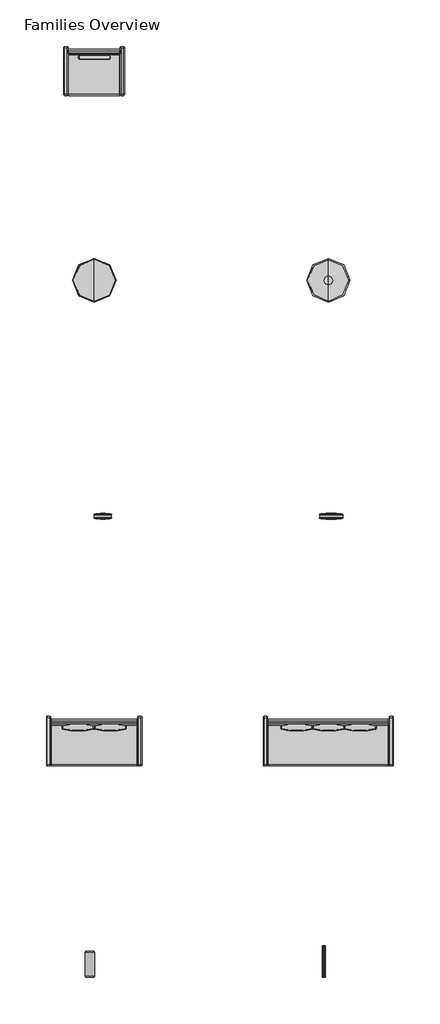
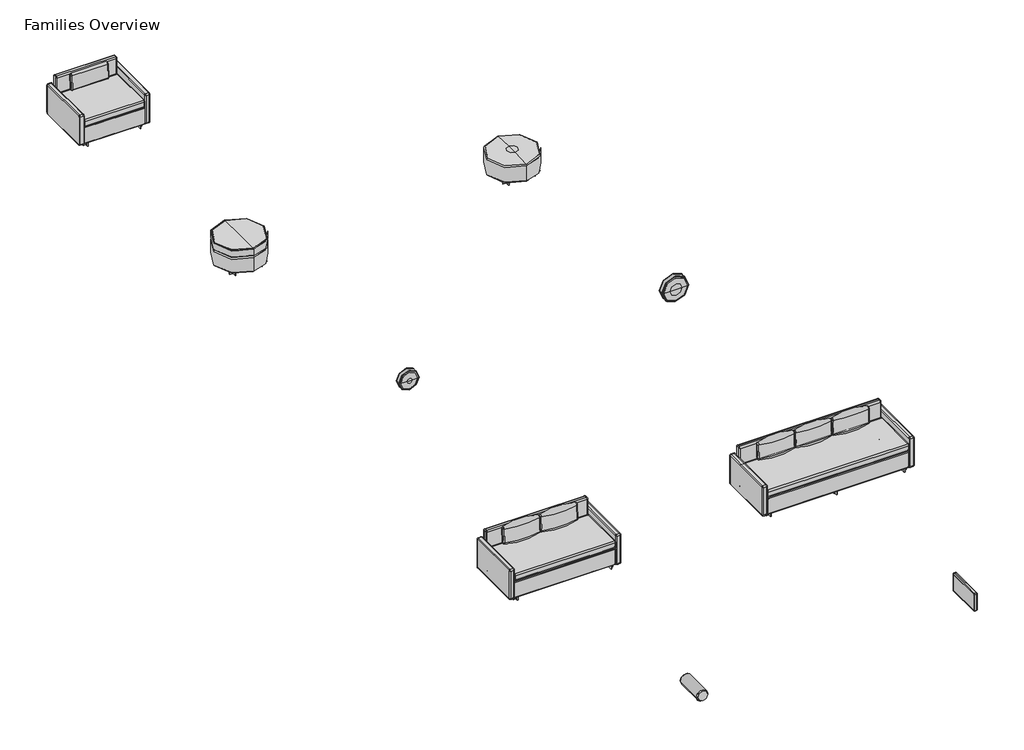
# One storey: 9 furniture elements.
"""IFC4 building model written with IfcOpenShell, lengths in millimetres."""

from ifc_helpers import new_model, si_unit, origin, place, context, project, spatial, transform, mapped, element, save
from components import furniture_1f1e9e6e, furniture_12d_b4e12894, furniture_16d_863c8917, chair_3ea6e28a, chair_06b946c4, pillow_arm_90742106, round_high_6d8b468d, round_low_1aa9a5bd, three_seat_28475667, three_seat_acbe4b72, two_seat_02a8d479, two_seat_8f21ff1d

model = new_model("IFC4")

# Units and contexts
model_context = context("Model", 3, world=origin())
ifc_project = project(units=[si_unit("LENGTHUNIT", "METRE", prefix="MILLI")], contexts=[model_context])

# Site, building, storey
site = spatial("IfcSite", under=ifc_project)
building = spatial("IfcBuilding", under=site)
storey = spatial("IfcBuildingStorey", under=building, Name="Families Overview", Elevation=0.0)

# Furniture
placement = place(None, origin())
furniture_shape = furniture_1f1e9e6e(model_context)
element("IfcFurniture", 1, ObjectType="Steelcase Coalesse - Evaneau - Seating - Arm Pillow and Bolster : Bolster Arm", at=placement, inside=storey, context=model_context, shape_type="MappedRepresentation", body=[
    mapped(furniture_shape, transform((-66850.6553121, 24132.2810442, 0.0), x_axis=(1.0, 0.0, 0.0), y_axis=(0.0, 1.0, 0.0), z_axis=(0.0, 0.0, 1.0))),
])
furniture_12d_shape = furniture_12d_b4e12894(model_context)
element("IfcFurniture", 2, ObjectType="Steelcase Coalesse - Evaneau - Seating - Round Back Pillow : 12D", at=placement, inside=storey, context=model_context, shape_type="MappedRepresentation", body=[
    mapped(furniture_12d_shape, transform((-66598.2188769, 32175.7017021, 0.0), x_axis=(1.0, 0.0, 0.0), y_axis=(0.0, 1.0, 0.0), z_axis=(0.0, 0.0, 1.0))),
])
furniture_16d_shape = furniture_16d_863c8917(model_context)
element("IfcFurniture", 3, ObjectType="Steelcase Coalesse - Evaneau - Seating - Round Back Pillow : 16D", at=placement, inside=storey, context=model_context, shape_type="MappedRepresentation", body=[
    mapped(furniture_16d_shape, transform((-62635.8188769, 32175.7017021, 0.0), x_axis=(1.0, 0.0, 0.0), y_axis=(0.0, 1.0, 0.0), z_axis=(0.0, 0.0, 1.0))),
])
chair_shape = chair_3ea6e28a(model_context)
chair_2_shape = chair_06b946c4(model_context)
element("IfcFurniture", 4, ObjectType="Steelcase Coalesse - Evaneau - Seating - Chair : Chair", at=placement, inside=storey, context=model_context, shape_type="MappedRepresentation", body=[
    mapped(chair_shape, transform((-66598.2188769, 39605.4212748, 0.0), x_axis=(1.0, 0.0, 0.0), y_axis=(0.0, 1.0, 0.0), z_axis=(0.0, 0.0, 1.0))),
    mapped(chair_2_shape, transform((-66598.2188769, 39605.4212748, 0.0), x_axis=(1.0, 0.0, 0.0), y_axis=(0.0, 1.0, 0.0), z_axis=(0.0, 0.0, 1.0))),
])
pillow_arm_shape = pillow_arm_90742106(model_context)
element("IfcFurniture", 5, ObjectType="Steelcase Coalesse - Evaneau - Seating - Arm Pillow and Bolster : Pillow Arm", at=placement, inside=storey, context=model_context, shape_type="MappedRepresentation", body=[
    mapped(pillow_arm_shape, transform((-62659.6553121, 24132.2810442, 0.0), x_axis=(1.0, 0.0, 0.0), y_axis=(0.0, 1.0, 0.0), z_axis=(0.0, 0.0, 1.0))),
])
round_high_shape = round_high_6d8b468d(model_context)
element("IfcFurniture", 6, ObjectType="Steelcase Coalesse - Evaneau - Seating - Ottoman : Round - High", at=placement, inside=storey, context=model_context, shape_type="MappedRepresentation", body=[
    mapped(round_high_shape, transform((-66979.2188769, 35985.7017021, 0.0), x_axis=(1.0, 0.0, 0.0), y_axis=(0.0, 1.0, 0.0), z_axis=(0.0, 0.0, 1.0))),
])
round_low_shape = round_low_1aa9a5bd(model_context)
element("IfcFurniture", 7, ObjectType="Steelcase Coalesse - Evaneau - Seating - Ottoman : Round - Low", at=placement, inside=storey, context=model_context, shape_type="MappedRepresentation", body=[
    mapped(round_low_shape, transform((-62864.4188769, 35985.7017021, 0.0), x_axis=(1.0, 0.0, 0.0), y_axis=(0.0, 1.0, 0.0), z_axis=(0.0, 0.0, 1.0))),
])
three_seat_shape = three_seat_28475667(model_context)
three_seat_2_shape = three_seat_acbe4b72(model_context)
element("IfcFurniture", 8, ObjectType="Steelcase Coalesse - Evaneau - Seating - Sofa : Three Seat", at=placement, inside=storey, context=model_context, shape_type="MappedRepresentation", body=[
    mapped(three_seat_shape, transform((-62483.4188769, 27844.4184711, 0.0), x_axis=(1.0, 0.0, 0.0), y_axis=(0.0, 1.0, 0.0), z_axis=(0.0, 0.0, 1.0))),
    mapped(three_seat_2_shape, transform((-62483.4188769, 27844.4184711, 0.0), x_axis=(1.0, 0.0, 0.0), y_axis=(0.0, 1.0, 0.0), z_axis=(0.0, 0.0, 1.0))),
])
two_seat_shape = two_seat_02a8d479(model_context)
two_seat_2_shape = two_seat_8f21ff1d(model_context)
element("IfcFurniture", 9, ObjectType="Steelcase Coalesse - Evaneau - Seating - Sofa : Two Seat", at=placement, inside=storey, context=model_context, shape_type="MappedRepresentation", body=[
    mapped(two_seat_shape, transform((-66598.2188769, 27844.4184711, 0.0), x_axis=(1.0, 0.0, 0.0), y_axis=(0.0, 1.0, 0.0), z_axis=(0.0, 0.0, 1.0))),
    mapped(two_seat_2_shape, transform((-66598.2188769, 27844.4184711, 0.0), x_axis=(1.0, 0.0, 0.0), y_axis=(0.0, 1.0, 0.0), z_axis=(0.0, 0.0, 1.0))),
])

save(model, "model.ifc")
